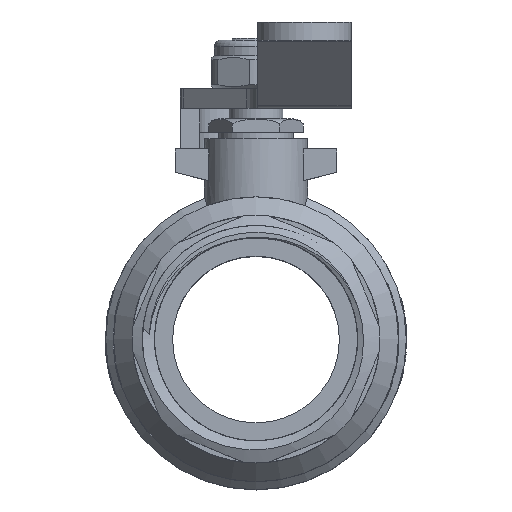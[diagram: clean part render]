
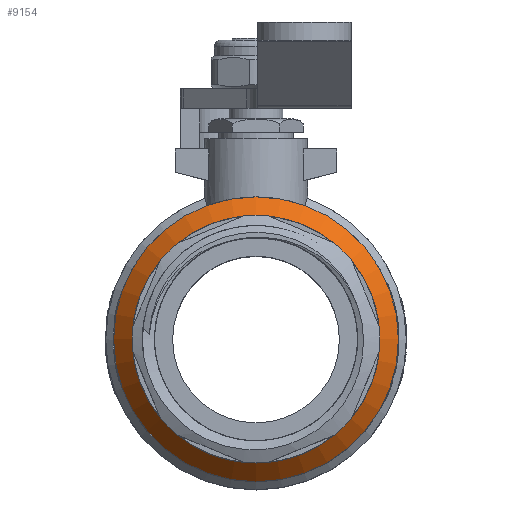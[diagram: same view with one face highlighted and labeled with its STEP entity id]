
A CAD part, top view. The second image highlights one B-rep face of the part: STEP entity #9154.
In plain terms, the highlighted conical face has half-angle 41.152 degrees and reference radius 25.54 mm.
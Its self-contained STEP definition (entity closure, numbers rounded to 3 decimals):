
#103=FACE_BOUND('',#1565,.T.);
#147=CONICAL_SURFACE('',#9831,25.54,0.718);
#983=FACE_OUTER_BOUND('',#1564,.T.);
#1564=EDGE_LOOP('',(#8440));
#1565=EDGE_LOOP('',(#8441));
#1745=CIRCLE('',#9512,27.331);
#1807=CIRCLE('',#9686,23.75);
#4049=VERTEX_POINT('',#19855);
#4297=VERTEX_POINT('',#22903);
#5186=EDGE_CURVE('',#4049,#4049,#1745,.T.);
#5581=EDGE_CURVE('',#4297,#4297,#1807,.T.);
#8440=ORIENTED_EDGE('',*,*,#5581,.T.);
#8441=ORIENTED_EDGE('',*,*,#5186,.F.);
#9154=ADVANCED_FACE('',(#983,#103),#147,.T.);
#9512=AXIS2_PLACEMENT_3D('',#19856,#10879,#10880);
#9686=AXIS2_PLACEMENT_3D('',#22904,#11425,#11426);
#9831=AXIS2_PLACEMENT_3D('',#23450,#11804,#11805);
#10879=DIRECTION('center_axis',(0.,0.,-1.));
#10880=DIRECTION('ref_axis',(1.,0.,0.));
#11425=DIRECTION('center_axis',(0.,0.,-1.));
#11426=DIRECTION('ref_axis',(1.,0.,0.));
#11804=DIRECTION('center_axis',(0.,0.,-1.));
#11805=DIRECTION('ref_axis',(0.,-1.,0.));
#19855=CARTESIAN_POINT('',(0.,-27.331,22.734));
#19856=CARTESIAN_POINT('Origin',(0.,0.,22.734));
#22903=CARTESIAN_POINT('',(0.,-23.75,26.831));
#22904=CARTESIAN_POINT('Origin',(0.,0.,26.831));
#23450=CARTESIAN_POINT('Origin',(0.,0.,24.783));
